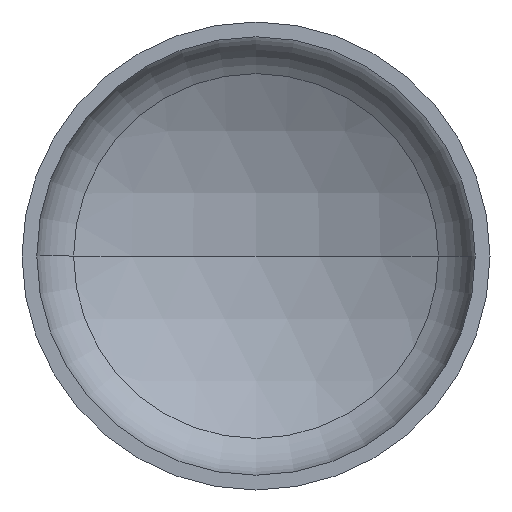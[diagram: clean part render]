
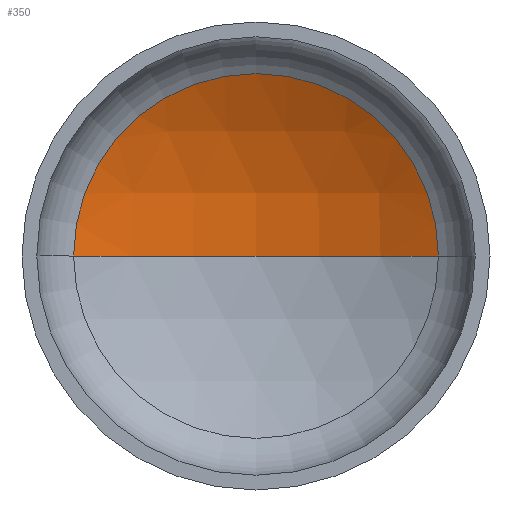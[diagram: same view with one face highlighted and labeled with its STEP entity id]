
A CAD part, front view. The second image highlights one B-rep face of the part: STEP entity #350.
In plain terms, the highlighted spherical face has radius 480 mm.
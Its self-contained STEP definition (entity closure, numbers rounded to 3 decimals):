
#1 = AXIS2_PLACEMENT_3D ( 'NONE', #126, #130, #342 ) ;
#7 = ORIENTED_EDGE ( 'NONE', *, *, #313, .F. ) ;
#11 = AXIS2_PLACEMENT_3D ( 'NONE', #88, #89, #118 ) ;
#14 = CARTESIAN_POINT ( 'NONE',  ( -233.814, 140.347, 0. ) ) ;
#23 = AXIS2_PLACEMENT_3D ( 'NONE', #398, #393, #135 ) ;
#39 = EDGE_LOOP ( 'NONE', ( #7, #392, #183 ) ) ;
#80 = DIRECTION ( 'NONE',  ( 0., 0., -1. ) ) ;
#88 = CARTESIAN_POINT ( 'NONE',  ( 0., -278.855, 0. ) ) ;
#89 = DIRECTION ( 'NONE',  ( 0., 0., 1. ) ) ;
#90 = CARTESIAN_POINT ( 'NONE',  ( 0., -278.855, 0. ) ) ;
#95 = VERTEX_POINT ( 'NONE', #292 ) ;
#98 = DIRECTION ( 'NONE',  ( -1., 0., 0. ) ) ;
#118 = DIRECTION ( 'NONE',  ( 1., 0., 0. ) ) ;
#126 = CARTESIAN_POINT ( 'NONE',  ( 0., 140.347, 0. ) ) ;
#130 = DIRECTION ( 'NONE',  ( 0., -1., 0. ) ) ;
#135 = DIRECTION ( 'NONE',  ( -1., 0., 0. ) ) ;
#141 = VERTEX_POINT ( 'NONE', #277 ) ;
#166 = VERTEX_POINT ( 'NONE', #14 ) ;
#183 = ORIENTED_EDGE ( 'NONE', *, *, #324, .T. ) ;
#256 = FACE_OUTER_BOUND ( 'NONE', #39, .T. ) ;
#270 = CIRCLE ( 'NONE', #1, 233.814 ) ;
#277 = CARTESIAN_POINT ( 'NONE',  ( 0., 201.145, 0. ) ) ;
#292 = CARTESIAN_POINT ( 'NONE',  ( 233.814, 140.347, 0. ) ) ;
#310 = EDGE_CURVE ( 'NONE', #141, #95, #406, .T. ) ;
#313 = EDGE_CURVE ( 'NONE', #141, #166, #354, .T. ) ;
#324 = EDGE_CURVE ( 'NONE', #95, #166, #270, .T. ) ;
#342 = DIRECTION ( 'NONE',  ( 1., 0., 0. ) ) ;
#350 = ADVANCED_FACE ( 'NONE', ( #256 ), #387, .F. ) ;
#354 = CIRCLE ( 'NONE', #11, 480. ) ;
#370 = AXIS2_PLACEMENT_3D ( 'NONE', #90, #80, #98 ) ;
#387 = SPHERICAL_SURFACE ( 'NONE', #370, 480. ) ;
#392 = ORIENTED_EDGE ( 'NONE', *, *, #310, .T. ) ;
#393 = DIRECTION ( 'NONE',  ( 0., 0., -1. ) ) ;
#398 = CARTESIAN_POINT ( 'NONE',  ( 0., -278.855, 0. ) ) ;
#406 = CIRCLE ( 'NONE', #23, 480. ) ;
